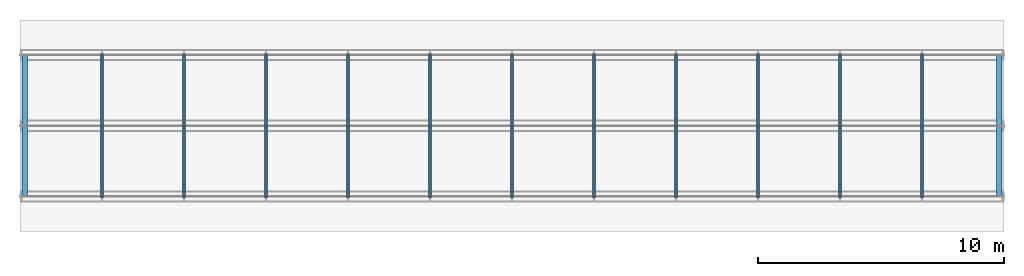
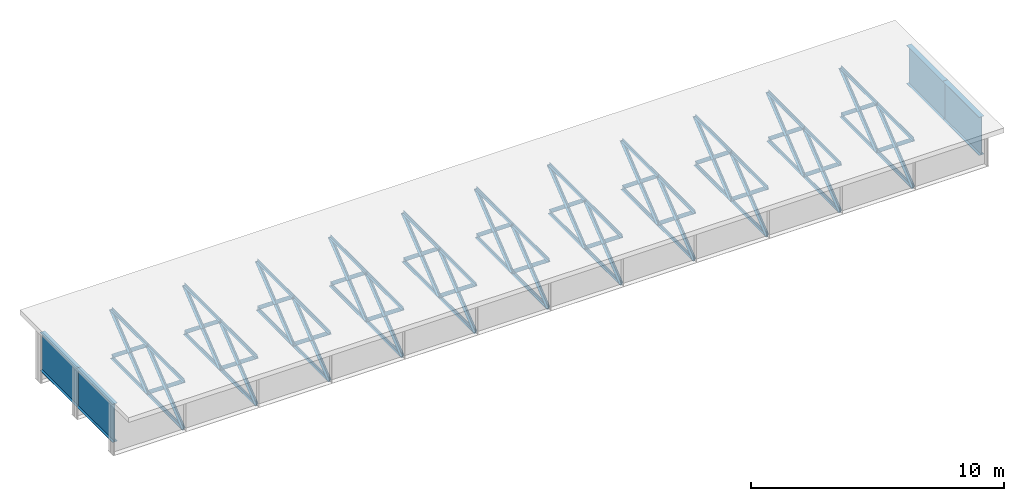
# One storey, part 1 of 12: 92 members.
"""IFC4 building model written with IfcOpenShell, lengths in metres."""

import ifcopenshell
import ifcopenshell.guid

model = None  # the IFC model being written
_history = None  # IfcOwnerHistory: only IFC2X3 demands one
_inside = {}  # id of a spatial element -> (the spatial element, [elements in it])
_under = {}  # id of a project, library or spatial element -> (it, [spatial elements below it])
_declared = {}  # id of a project -> (the project, [libraries it declares])
_typed = {}  # id of a type object -> (the type object, [elements of that type])
_made_of = {}  # id of a material, layer set ... -> (it, [elements and type objects made of it])


def new_model(schema):
    """Start an empty IFC model of exactly this schema.

    Asked for "IFC4X3", IfcOpenShell would pick the latest addendum, in which some entities
    have other attributes; the version numbers below select the first issue.
    IFC2X3 requires an IfcOwnerHistory on every rooted entity: one is made here for all.
    """
    global model, _history
    if schema == "IFC4X3":
        model = ifcopenshell.file(schema_version=(4, 3, 0, 0))
    else:
        model = ifcopenshell.file(schema=schema)
    _inside.clear()
    _under.clear()
    _declared.clear()
    _typed.clear()
    _made_of.clear()
    _history = None
    if model.schema == "IFC2X3":
        org = make("IfcOrganization", Name="unknown")
        user = make(
            "IfcPersonAndOrganization",
            ThePerson=make("IfcPerson", FamilyName="unknown"),
            TheOrganization=org,
        )
        app = make(
            "IfcApplication",
            ApplicationDeveloper=org,
            Version="unknown",
            ApplicationFullName="unknown",
            ApplicationIdentifier="unknown",
        )
        _history = make(
            "IfcOwnerHistory",
            OwningUser=user,
            OwningApplication=app,
            ChangeAction="ADDED",
            CreationDate=0,
        )
    return model


def make(cls, **values):
    """One entity of the class cls with the attributes given. An attribute that is None is left unset."""
    return model.create_entity(
        cls, **{name: value for name, value in values.items() if value is not None}
    )


def rooted(cls, **values):
    """An entity with a GlobalId (a new one), such as an element, a storey or a relation."""
    return make(cls, GlobalId=ifcopenshell.guid.new(), OwnerHistory=_history, **values)


def si_unit(unit_type, name, prefix=None):
    """IfcSIUnit, for example si_unit("LENGTHUNIT", "METRE", prefix="MILLI")."""
    return make("IfcSIUnit", UnitType=unit_type, Prefix=prefix, Name=name)


def assignment(units):
    """IfcUnitAssignment: the units of a project."""
    return None if units is None else make("IfcUnitAssignment", Units=units)


def point(xyz):
    """IfcCartesianPoint."""
    return None if xyz is None else make("IfcCartesianPoint", Coordinates=xyz)


def direction(xyz):
    """IfcDirection."""
    return None if xyz is None else make("IfcDirection", DirectionRatios=xyz)


def frame(location, z_axis=None, x_axis=None):
    """IfcAxis2Placement3D, a coordinate frame: its origin and axes. An axis left out is left unset."""
    return make(
        "IfcAxis2Placement3D",
        Location=point(location),
        Axis=direction(z_axis),
        RefDirection=direction(x_axis),
    )


def frame_2d(location, x_axis=None):
    """IfcAxis2Placement2D, a coordinate frame in the plane: its origin and x axis."""
    return make(
        "IfcAxis2Placement2D", Location=point(location), RefDirection=direction(x_axis)
    )


def origin():
    """The frame at (0, 0, 0) with its axes left unset."""
    return frame((0.0, 0.0, 0.0))


def origin_with_axes():
    """The frame at (0, 0, 0) with the z axis (0, 0, 1) and the x axis (1, 0, 0) written out."""
    return frame((0.0, 0.0, 0.0), z_axis=(0.0, 0.0, 1.0), x_axis=(1.0, 0.0, 0.0))


def origin_2d_with_axis():
    """The frame at (0, 0) in the plane with the x axis (1, 0) written out."""
    return frame_2d((0.0, 0.0), x_axis=(1.0, 0.0))


def place(relative_to, where):
    """IfcLocalPlacement: puts the frame where relative to a parent placement (None: the world)."""
    return make(
        "IfcLocalPlacement", PlacementRelTo=relative_to, RelativePlacement=where
    )


def context(
    kind, dimensions, precision=None, world=None, true_north=None, identifier=None
):
    """IfcGeometricRepresentationContext, for example the 3D "Model" context."""
    return make(
        "IfcGeometricRepresentationContext",
        ContextIdentifier=identifier,
        ContextType=kind,
        CoordinateSpaceDimension=dimensions,
        Precision=precision,
        WorldCoordinateSystem=world,
        TrueNorth=true_north,
    )


def subcontext(parent, identifier, kind, view, scale=None):
    """IfcGeometricRepresentationSubContext, for example "Body" below "Model"."""
    return make(
        "IfcGeometricRepresentationSubContext",
        ContextIdentifier=identifier,
        ContextType=kind,
        ParentContext=parent,
        TargetScale=scale,
        TargetView=view,
    )


def project(units=None, contexts=None):
    """IfcProject with its units and contexts."""
    return rooted(
        "IfcProject",
        Name="project",
        RepresentationContexts=contexts,
        UnitsInContext=assignment(units),
    )


def spatial(cls, under=None, at=None, **own):
    """A site, building, storey or space (cls), placed at a placement, below another one or the project."""
    s = rooted(cls, ObjectPlacement=at, **own)
    if under is not None:
        _under.setdefault(under.id(), (under, []))[1].append(s)
    return s


def profile(cls, at=None, kind="AREA", **sizes):
    """A parametric profile (cls). Its sizes go by their IFC names, for example OverallWidth=200.0."""
    return make(cls, ProfileType=kind, Position=at, **sizes)


def i_section(**sizes):
    """IfcIShapeProfileDef."""
    return profile("IfcIShapeProfileDef", **sizes)


def l_section(**sizes):
    """IfcLShapeProfileDef."""
    return profile("IfcLShapeProfileDef", **sizes)


def extrude(swept, where, along, depth):
    """IfcExtrudedAreaSolid: the profile swept, set in the frame where, extruded along a direction by depth."""
    return make(
        "IfcExtrudedAreaSolid",
        SweptArea=swept,
        Position=where,
        ExtrudedDirection=direction(along),
        Depth=depth,
    )


def shape(context_of_items, identifier, shape_type, items):
    """IfcShapeRepresentation: the items that make up one representation, for example the "Body"."""
    return make(
        "IfcShapeRepresentation",
        ContextOfItems=context_of_items,
        RepresentationIdentifier=identifier,
        RepresentationType=shape_type,
        Items=items,
    )


def made_of(thing, what):
    """Note that an element or type object is made of a material, layer set ...; save() writes the relation."""
    if what is not None:
        _made_of.setdefault(what.id(), (what, []))[1].append(thing)
    return thing


def element(
    cls,
    number,
    at=None,
    inside=None,
    cuts=None,
    type_object=None,
    material=None,
    context=None,
    identifier="Body",
    shape_type=None,
    held_by="IfcProductDefinitionShape",
    body=None,
    shapes=None,
    **own,
):
    """One element of the class cls, such as IfcWall. Its Tag is "e" and its number.

    at: its placement. inside: the storey or other place that contains it. cuts: it is an
    opening in that element (IfcRelVoidsElement). A single representation is given by context,
    identifier, shape_type and body (its items); several are given by shapes. held_by: the class
    of the entity that holds the representations. save() writes the other relations.
    """
    e = rooted(cls, Tag="e%d" % number, ObjectPlacement=at, **own)
    if body is not None:
        shapes = [shape(context, identifier, shape_type, body)]
    if shapes is not None:
        e.Representation = make(held_by, Representations=shapes)
    if inside is not None:
        _inside.setdefault(inside.id(), (inside, []))[1].append(e)
    if cuts is not None:
        rooted(
            "IfcRelVoidsElement", RelatingBuildingElement=cuts, RelatedOpeningElement=e
        )
    if type_object is not None:
        _typed.setdefault(type_object.id(), (type_object, []))[1].append(e)
    return made_of(e, material)


def aggregate(whole, parts):
    """IfcRelAggregates: a whole, such as a stair, and the parts it consists of."""
    return rooted("IfcRelAggregates", RelatingObject=whole, RelatedObjects=parts)


def save(model, path):
    """Write the relations noted so far, then the file.

    IfcRelAggregates (storeys below a building ...), IfcRelContainedInSpatialStructure (elements
    in a storey), IfcRelDefinesByType, IfcRelAssociatesMaterial and IfcRelDeclares: one each for
    every whole, place, type object, material and project.
    """
    for whole, parts in _under.values():
        aggregate(whole, parts)
    for where, things in _inside.values():
        rooted(
            "IfcRelContainedInSpatialStructure",
            RelatedElements=things,
            RelatingStructure=where,
        )
    for kind, things in _typed.values():
        rooted("IfcRelDefinesByType", RelatedObjects=things, RelatingType=kind)
    for what, things in _made_of.values():
        rooted("IfcRelAssociatesMaterial", RelatedObjects=things, RelatingMaterial=what)
    for by, libraries in _declared.values():
        rooted("IfcRelDeclares", RelatingContext=by, RelatedDefinitions=libraries)
    model.write(path)


model = new_model("IFC4")

# Units and contexts
model_context = context("Model", 3, precision=1e-05, world=origin())
body_context = subcontext(model_context, "Body", "Model", "MODEL_VIEW")
ifc_project = project(units=[si_unit("LENGTHUNIT", "METRE"), si_unit("AREAUNIT", "SQUARE_METRE"), si_unit("VOLUMEUNIT", "CUBIC_METRE"), si_unit("PLANEANGLEUNIT", "RADIAN")], contexts=[model_context])

# Site, building, storey
site_placement = place(None, origin_with_axes())
site = spatial("IfcSite", under=ifc_project, at=site_placement, Name="Default Site")
building_placement = place(site_placement, origin_with_axes())
building = spatial("IfcBuilding", under=site, at=building_placement, Name="Bridge Structure")
storey_placement = place(building_placement, origin_with_axes())
storey = spatial("IfcBuildingStorey", under=building, at=storey_placement, Name="Superstructure")

# Members
for number, where, z_axis, x_axis, name in (
    (1, (0.2, -2.875, 0.231), (0.0, 1.0, 0.0), (-1.0, 0.0, 0.0), "End Diaphragm"),
    (2, (0.2, 0.0, 0.231), (0.0, 1.0, 0.0), (-1.0, 0.0, 0.0), "End Diaphragm"),
):
    element("IfcMember", number, at=place(storey_placement, frame(where, z_axis=z_axis, x_axis=x_axis)), inside=storey, Name=name, context=body_context, shape_type="SweptSolid", body=[
        extrude(i_section(OverallWidth=0.225, OverallDepth=1.848, WebThickness=0.02, FlangeThickness=0.012, at=origin_2d_with_axis()), origin_with_axes(), (0.0, 0.0, 1.0), 2.875),
    ])
for number, where, z_axis, x_axis, name in (
    (3, (3.3333333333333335, -2.875, 1.155), (0.0, 0.7795443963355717, -0.6263469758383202), (-1.0, 0.0, 0.0), "Diagonal Brace"),
    (4, (3.3333333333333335, -2.875, -1.155), (0.0, 0.7795443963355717, 0.6263469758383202), (-1.0, 0.0, 0.0), "Diagonal Brace"),
):
    element("IfcMember", number, at=place(storey_placement, frame(where, z_axis=z_axis, x_axis=x_axis)), inside=storey, Name=name, context=body_context, shape_type="SweptSolid", body=[
        extrude(l_section(Depth=0.17300000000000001, Width=0.115, Thickness=0.008, at=origin_2d_with_axis()), origin_with_axes(), (0.0, 0.0, 1.0), 3.688051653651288),
    ])
for number, where, z_axis, x_axis, name in (
    (5, (3.3333333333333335, -2.875, -1.155), (0.0, 1.0, 0.0), (-1.0, 0.0, 0.0), "Bottom Chord"),
    (6, (3.3333333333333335, -2.875, 1.155), (0.0, 1.0, 0.0), (-1.0, 0.0, 0.0), "Top Chord"),
):
    element("IfcMember", number, at=place(storey_placement, frame(where, z_axis=z_axis, x_axis=x_axis)), inside=storey, Name=name, context=body_context, shape_type="SweptSolid", body=[
        extrude(l_section(Depth=0.15, Width=0.092, Thickness=0.008, at=origin_2d_with_axis()), origin_with_axes(), (0.0, 0.0, 1.0), 2.875),
    ])
for number, where, z_axis, x_axis, name in (
    (7, (3.3333333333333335, 0.0, 1.155), (0.0, 0.7795443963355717, -0.6263469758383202), (-1.0, 0.0, 0.0), "Diagonal Brace"),
    (8, (3.3333333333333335, 0.0, -1.155), (0.0, 0.7795443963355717, 0.6263469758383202), (-1.0, 0.0, 0.0), "Diagonal Brace"),
):
    element("IfcMember", number, at=place(storey_placement, frame(where, z_axis=z_axis, x_axis=x_axis)), inside=storey, Name=name, context=body_context, shape_type="SweptSolid", body=[
        extrude(l_section(Depth=0.17300000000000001, Width=0.115, Thickness=0.008, at=origin_2d_with_axis()), origin_with_axes(), (0.0, 0.0, 1.0), 3.688051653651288),
    ])
for number, where, z_axis, x_axis, name in (
    (9, (3.3333333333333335, 0.0, -1.155), (0.0, 1.0, 0.0), (-1.0, 0.0, 0.0), "Bottom Chord"),
    (10, (3.3333333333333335, 0.0, 1.155), (0.0, 1.0, 0.0), (-1.0, 0.0, 0.0), "Top Chord"),
):
    element("IfcMember", number, at=place(storey_placement, frame(where, z_axis=z_axis, x_axis=x_axis)), inside=storey, Name=name, context=body_context, shape_type="SweptSolid", body=[
        extrude(l_section(Depth=0.15, Width=0.092, Thickness=0.008, at=origin_2d_with_axis()), origin_with_axes(), (0.0, 0.0, 1.0), 2.875),
    ])
for number, where, z_axis, x_axis, name in (
    (11, (6.666666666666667, -2.875, 1.155), (0.0, 0.7795443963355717, -0.6263469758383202), (-1.0, 0.0, 0.0), "Diagonal Brace"),
    (12, (6.666666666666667, -2.875, -1.155), (0.0, 0.7795443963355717, 0.6263469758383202), (-1.0, 0.0, 0.0), "Diagonal Brace"),
):
    element("IfcMember", number, at=place(storey_placement, frame(where, z_axis=z_axis, x_axis=x_axis)), inside=storey, Name=name, context=body_context, shape_type="SweptSolid", body=[
        extrude(l_section(Depth=0.17300000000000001, Width=0.115, Thickness=0.008, at=origin_2d_with_axis()), origin_with_axes(), (0.0, 0.0, 1.0), 3.688051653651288),
    ])
for number, where, z_axis, x_axis, name in (
    (13, (6.666666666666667, -2.875, -1.155), (0.0, 1.0, 0.0), (-1.0, 0.0, 0.0), "Bottom Chord"),
    (14, (6.666666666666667, -2.875, 1.155), (0.0, 1.0, 0.0), (-1.0, 0.0, 0.0), "Top Chord"),
):
    element("IfcMember", number, at=place(storey_placement, frame(where, z_axis=z_axis, x_axis=x_axis)), inside=storey, Name=name, context=body_context, shape_type="SweptSolid", body=[
        extrude(l_section(Depth=0.15, Width=0.092, Thickness=0.008, at=origin_2d_with_axis()), origin_with_axes(), (0.0, 0.0, 1.0), 2.875),
    ])
for number, where, z_axis, x_axis, name in (
    (15, (6.666666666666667, 0.0, 1.155), (0.0, 0.7795443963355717, -0.6263469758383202), (-1.0, 0.0, 0.0), "Diagonal Brace"),
    (16, (6.666666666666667, 0.0, -1.155), (0.0, 0.7795443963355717, 0.6263469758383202), (-1.0, 0.0, 0.0), "Diagonal Brace"),
):
    element("IfcMember", number, at=place(storey_placement, frame(where, z_axis=z_axis, x_axis=x_axis)), inside=storey, Name=name, context=body_context, shape_type="SweptSolid", body=[
        extrude(l_section(Depth=0.17300000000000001, Width=0.115, Thickness=0.008, at=origin_2d_with_axis()), origin_with_axes(), (0.0, 0.0, 1.0), 3.688051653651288),
    ])
for number, where, z_axis, x_axis, name in (
    (17, (6.666666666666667, 0.0, -1.155), (0.0, 1.0, 0.0), (-1.0, 0.0, 0.0), "Bottom Chord"),
    (18, (6.666666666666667, 0.0, 1.155), (0.0, 1.0, 0.0), (-1.0, 0.0, 0.0), "Top Chord"),
):
    element("IfcMember", number, at=place(storey_placement, frame(where, z_axis=z_axis, x_axis=x_axis)), inside=storey, Name=name, context=body_context, shape_type="SweptSolid", body=[
        extrude(l_section(Depth=0.15, Width=0.092, Thickness=0.008, at=origin_2d_with_axis()), origin_with_axes(), (0.0, 0.0, 1.0), 2.875),
    ])
for number, where, z_axis, x_axis, name in (
    (19, (10.0, -2.875, 1.155), (0.0, 0.7795443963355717, -0.6263469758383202), (-1.0, 0.0, 0.0), "Diagonal Brace"),
    (20, (10.0, -2.875, -1.155), (0.0, 0.7795443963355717, 0.6263469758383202), (-1.0, 0.0, 0.0), "Diagonal Brace"),
):
    element("IfcMember", number, at=place(storey_placement, frame(where, z_axis=z_axis, x_axis=x_axis)), inside=storey, Name=name, context=body_context, shape_type="SweptSolid", body=[
        extrude(l_section(Depth=0.17300000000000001, Width=0.115, Thickness=0.008, at=origin_2d_with_axis()), origin_with_axes(), (0.0, 0.0, 1.0), 3.688051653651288),
    ])
for number, where, z_axis, x_axis, name in (
    (21, (10.0, -2.875, -1.155), (0.0, 1.0, 0.0), (-1.0, 0.0, 0.0), "Bottom Chord"),
    (22, (10.0, -2.875, 1.155), (0.0, 1.0, 0.0), (-1.0, 0.0, 0.0), "Top Chord"),
):
    element("IfcMember", number, at=place(storey_placement, frame(where, z_axis=z_axis, x_axis=x_axis)), inside=storey, Name=name, context=body_context, shape_type="SweptSolid", body=[
        extrude(l_section(Depth=0.15, Width=0.092, Thickness=0.008, at=origin_2d_with_axis()), origin_with_axes(), (0.0, 0.0, 1.0), 2.875),
    ])
for number, where, z_axis, x_axis, name in (
    (23, (10.0, 0.0, 1.155), (0.0, 0.7795443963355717, -0.6263469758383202), (-1.0, 0.0, 0.0), "Diagonal Brace"),
    (24, (10.0, 0.0, -1.155), (0.0, 0.7795443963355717, 0.6263469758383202), (-1.0, 0.0, 0.0), "Diagonal Brace"),
):
    element("IfcMember", number, at=place(storey_placement, frame(where, z_axis=z_axis, x_axis=x_axis)), inside=storey, Name=name, context=body_context, shape_type="SweptSolid", body=[
        extrude(l_section(Depth=0.17300000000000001, Width=0.115, Thickness=0.008, at=origin_2d_with_axis()), origin_with_axes(), (0.0, 0.0, 1.0), 3.688051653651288),
    ])
for number, where, z_axis, x_axis, name in (
    (25, (10.0, 0.0, -1.155), (0.0, 1.0, 0.0), (-1.0, 0.0, 0.0), "Bottom Chord"),
    (26, (10.0, 0.0, 1.155), (0.0, 1.0, 0.0), (-1.0, 0.0, 0.0), "Top Chord"),
):
    element("IfcMember", number, at=place(storey_placement, frame(where, z_axis=z_axis, x_axis=x_axis)), inside=storey, Name=name, context=body_context, shape_type="SweptSolid", body=[
        extrude(l_section(Depth=0.15, Width=0.092, Thickness=0.008, at=origin_2d_with_axis()), origin_with_axes(), (0.0, 0.0, 1.0), 2.875),
    ])
for number, where, z_axis, x_axis, name in (
    (27, (13.333333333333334, -2.875, 1.155), (0.0, 0.7795443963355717, -0.6263469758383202), (-1.0, 0.0, 0.0), "Diagonal Brace"),
    (28, (13.333333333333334, -2.875, -1.155), (0.0, 0.7795443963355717, 0.6263469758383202), (-1.0, 0.0, 0.0), "Diagonal Brace"),
):
    element("IfcMember", number, at=place(storey_placement, frame(where, z_axis=z_axis, x_axis=x_axis)), inside=storey, Name=name, context=body_context, shape_type="SweptSolid", body=[
        extrude(l_section(Depth=0.17300000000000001, Width=0.115, Thickness=0.008, at=origin_2d_with_axis()), origin_with_axes(), (0.0, 0.0, 1.0), 3.688051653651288),
    ])
for number, where, z_axis, x_axis, name in (
    (29, (13.333333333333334, -2.875, -1.155), (0.0, 1.0, 0.0), (-1.0, 0.0, 0.0), "Bottom Chord"),
    (30, (13.333333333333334, -2.875, 1.155), (0.0, 1.0, 0.0), (-1.0, 0.0, 0.0), "Top Chord"),
):
    element("IfcMember", number, at=place(storey_placement, frame(where, z_axis=z_axis, x_axis=x_axis)), inside=storey, Name=name, context=body_context, shape_type="SweptSolid", body=[
        extrude(l_section(Depth=0.15, Width=0.092, Thickness=0.008, at=origin_2d_with_axis()), origin_with_axes(), (0.0, 0.0, 1.0), 2.875),
    ])
for number, where, z_axis, x_axis, name in (
    (31, (13.333333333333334, 0.0, 1.155), (0.0, 0.7795443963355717, -0.6263469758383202), (-1.0, 0.0, 0.0), "Diagonal Brace"),
    (32, (13.333333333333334, 0.0, -1.155), (0.0, 0.7795443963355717, 0.6263469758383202), (-1.0, 0.0, 0.0), "Diagonal Brace"),
):
    element("IfcMember", number, at=place(storey_placement, frame(where, z_axis=z_axis, x_axis=x_axis)), inside=storey, Name=name, context=body_context, shape_type="SweptSolid", body=[
        extrude(l_section(Depth=0.17300000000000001, Width=0.115, Thickness=0.008, at=origin_2d_with_axis()), origin_with_axes(), (0.0, 0.0, 1.0), 3.688051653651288),
    ])
for number, where, z_axis, x_axis, name in (
    (33, (13.333333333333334, 0.0, -1.155), (0.0, 1.0, 0.0), (-1.0, 0.0, 0.0), "Bottom Chord"),
    (34, (13.333333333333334, 0.0, 1.155), (0.0, 1.0, 0.0), (-1.0, 0.0, 0.0), "Top Chord"),
):
    element("IfcMember", number, at=place(storey_placement, frame(where, z_axis=z_axis, x_axis=x_axis)), inside=storey, Name=name, context=body_context, shape_type="SweptSolid", body=[
        extrude(l_section(Depth=0.15, Width=0.092, Thickness=0.008, at=origin_2d_with_axis()), origin_with_axes(), (0.0, 0.0, 1.0), 2.875),
    ])
for number, where, z_axis, x_axis, name in (
    (35, (16.666666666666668, -2.875, 1.155), (0.0, 0.7795443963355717, -0.6263469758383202), (-1.0, 0.0, 0.0), "Diagonal Brace"),
    (36, (16.666666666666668, -2.875, -1.155), (0.0, 0.7795443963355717, 0.6263469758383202), (-1.0, 0.0, 0.0), "Diagonal Brace"),
):
    element("IfcMember", number, at=place(storey_placement, frame(where, z_axis=z_axis, x_axis=x_axis)), inside=storey, Name=name, context=body_context, shape_type="SweptSolid", body=[
        extrude(l_section(Depth=0.17300000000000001, Width=0.115, Thickness=0.008, at=origin_2d_with_axis()), origin_with_axes(), (0.0, 0.0, 1.0), 3.688051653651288),
    ])
for number, where, z_axis, x_axis, name in (
    (37, (16.666666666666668, -2.875, -1.155), (0.0, 1.0, 0.0), (-1.0, 0.0, 0.0), "Bottom Chord"),
    (38, (16.666666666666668, -2.875, 1.155), (0.0, 1.0, 0.0), (-1.0, 0.0, 0.0), "Top Chord"),
):
    element("IfcMember", number, at=place(storey_placement, frame(where, z_axis=z_axis, x_axis=x_axis)), inside=storey, Name=name, context=body_context, shape_type="SweptSolid", body=[
        extrude(l_section(Depth=0.15, Width=0.092, Thickness=0.008, at=origin_2d_with_axis()), origin_with_axes(), (0.0, 0.0, 1.0), 2.875),
    ])
for number, where, z_axis, x_axis, name in (
    (39, (16.666666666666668, 0.0, 1.155), (0.0, 0.7795443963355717, -0.6263469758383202), (-1.0, 0.0, 0.0), "Diagonal Brace"),
    (40, (16.666666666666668, 0.0, -1.155), (0.0, 0.7795443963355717, 0.6263469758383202), (-1.0, 0.0, 0.0), "Diagonal Brace"),
):
    element("IfcMember", number, at=place(storey_placement, frame(where, z_axis=z_axis, x_axis=x_axis)), inside=storey, Name=name, context=body_context, shape_type="SweptSolid", body=[
        extrude(l_section(Depth=0.17300000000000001, Width=0.115, Thickness=0.008, at=origin_2d_with_axis()), origin_with_axes(), (0.0, 0.0, 1.0), 3.688051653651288),
    ])
for number, where, z_axis, x_axis, name in (
    (41, (16.666666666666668, 0.0, -1.155), (0.0, 1.0, 0.0), (-1.0, 0.0, 0.0), "Bottom Chord"),
    (42, (16.666666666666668, 0.0, 1.155), (0.0, 1.0, 0.0), (-1.0, 0.0, 0.0), "Top Chord"),
):
    element("IfcMember", number, at=place(storey_placement, frame(where, z_axis=z_axis, x_axis=x_axis)), inside=storey, Name=name, context=body_context, shape_type="SweptSolid", body=[
        extrude(l_section(Depth=0.15, Width=0.092, Thickness=0.008, at=origin_2d_with_axis()), origin_with_axes(), (0.0, 0.0, 1.0), 2.875),
    ])
for number, where, z_axis, x_axis, name in (
    (43, (20.0, -2.875, 1.155), (0.0, 0.7795443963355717, -0.6263469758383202), (-1.0, 0.0, 0.0), "Diagonal Brace"),
    (44, (20.0, -2.875, -1.155), (0.0, 0.7795443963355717, 0.6263469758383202), (-1.0, 0.0, 0.0), "Diagonal Brace"),
):
    element("IfcMember", number, at=place(storey_placement, frame(where, z_axis=z_axis, x_axis=x_axis)), inside=storey, Name=name, context=body_context, shape_type="SweptSolid", body=[
        extrude(l_section(Depth=0.17300000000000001, Width=0.115, Thickness=0.008, at=origin_2d_with_axis()), origin_with_axes(), (0.0, 0.0, 1.0), 3.688051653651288),
    ])
for number, where, z_axis, x_axis, name in (
    (45, (20.0, -2.875, -1.155), (0.0, 1.0, 0.0), (-1.0, 0.0, 0.0), "Bottom Chord"),
    (46, (20.0, -2.875, 1.155), (0.0, 1.0, 0.0), (-1.0, 0.0, 0.0), "Top Chord"),
):
    element("IfcMember", number, at=place(storey_placement, frame(where, z_axis=z_axis, x_axis=x_axis)), inside=storey, Name=name, context=body_context, shape_type="SweptSolid", body=[
        extrude(l_section(Depth=0.15, Width=0.092, Thickness=0.008, at=origin_2d_with_axis()), origin_with_axes(), (0.0, 0.0, 1.0), 2.875),
    ])
for number, where, z_axis, x_axis, name in (
    (47, (20.0, 0.0, 1.155), (0.0, 0.7795443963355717, -0.6263469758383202), (-1.0, 0.0, 0.0), "Diagonal Brace"),
    (48, (20.0, 0.0, -1.155), (0.0, 0.7795443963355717, 0.6263469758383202), (-1.0, 0.0, 0.0), "Diagonal Brace"),
):
    element("IfcMember", number, at=place(storey_placement, frame(where, z_axis=z_axis, x_axis=x_axis)), inside=storey, Name=name, context=body_context, shape_type="SweptSolid", body=[
        extrude(l_section(Depth=0.17300000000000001, Width=0.115, Thickness=0.008, at=origin_2d_with_axis()), origin_with_axes(), (0.0, 0.0, 1.0), 3.688051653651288),
    ])
for number, where, z_axis, x_axis, name in (
    (49, (20.0, 0.0, -1.155), (0.0, 1.0, 0.0), (-1.0, 0.0, 0.0), "Bottom Chord"),
    (50, (20.0, 0.0, 1.155), (0.0, 1.0, 0.0), (-1.0, 0.0, 0.0), "Top Chord"),
):
    element("IfcMember", number, at=place(storey_placement, frame(where, z_axis=z_axis, x_axis=x_axis)), inside=storey, Name=name, context=body_context, shape_type="SweptSolid", body=[
        extrude(l_section(Depth=0.15, Width=0.092, Thickness=0.008, at=origin_2d_with_axis()), origin_with_axes(), (0.0, 0.0, 1.0), 2.875),
    ])
for number, where, z_axis, x_axis, name in (
    (51, (23.333333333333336, -2.875, 1.155), (0.0, 0.7795443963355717, -0.6263469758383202), (-1.0, 0.0, 0.0), "Diagonal Brace"),
    (52, (23.333333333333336, -2.875, -1.155), (0.0, 0.7795443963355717, 0.6263469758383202), (-1.0, 0.0, 0.0), "Diagonal Brace"),
):
    element("IfcMember", number, at=place(storey_placement, frame(where, z_axis=z_axis, x_axis=x_axis)), inside=storey, Name=name, context=body_context, shape_type="SweptSolid", body=[
        extrude(l_section(Depth=0.17300000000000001, Width=0.115, Thickness=0.008, at=origin_2d_with_axis()), origin_with_axes(), (0.0, 0.0, 1.0), 3.688051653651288),
    ])
for number, where, z_axis, x_axis, name in (
    (53, (23.333333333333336, -2.875, -1.155), (0.0, 1.0, 0.0), (-1.0, 0.0, 0.0), "Bottom Chord"),
    (54, (23.333333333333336, -2.875, 1.155), (0.0, 1.0, 0.0), (-1.0, 0.0, 0.0), "Top Chord"),
):
    element("IfcMember", number, at=place(storey_placement, frame(where, z_axis=z_axis, x_axis=x_axis)), inside=storey, Name=name, context=body_context, shape_type="SweptSolid", body=[
        extrude(l_section(Depth=0.15, Width=0.092, Thickness=0.008, at=origin_2d_with_axis()), origin_with_axes(), (0.0, 0.0, 1.0), 2.875),
    ])
for number, where, z_axis, x_axis, name in (
    (55, (23.333333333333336, 0.0, 1.155), (0.0, 0.7795443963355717, -0.6263469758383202), (-1.0, 0.0, 0.0), "Diagonal Brace"),
    (56, (23.333333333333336, 0.0, -1.155), (0.0, 0.7795443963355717, 0.6263469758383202), (-1.0, 0.0, 0.0), "Diagonal Brace"),
):
    element("IfcMember", number, at=place(storey_placement, frame(where, z_axis=z_axis, x_axis=x_axis)), inside=storey, Name=name, context=body_context, shape_type="SweptSolid", body=[
        extrude(l_section(Depth=0.17300000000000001, Width=0.115, Thickness=0.008, at=origin_2d_with_axis()), origin_with_axes(), (0.0, 0.0, 1.0), 3.688051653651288),
    ])
for number, where, z_axis, x_axis, name in (
    (57, (23.333333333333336, 0.0, -1.155), (0.0, 1.0, 0.0), (-1.0, 0.0, 0.0), "Bottom Chord"),
    (58, (23.333333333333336, 0.0, 1.155), (0.0, 1.0, 0.0), (-1.0, 0.0, 0.0), "Top Chord"),
):
    element("IfcMember", number, at=place(storey_placement, frame(where, z_axis=z_axis, x_axis=x_axis)), inside=storey, Name=name, context=body_context, shape_type="SweptSolid", body=[
        extrude(l_section(Depth=0.15, Width=0.092, Thickness=0.008, at=origin_2d_with_axis()), origin_with_axes(), (0.0, 0.0, 1.0), 2.875),
    ])
for number, where, z_axis, x_axis, name in (
    (59, (26.666666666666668, -2.875, 1.155), (0.0, 0.7795443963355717, -0.6263469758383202), (-1.0, 0.0, 0.0), "Diagonal Brace"),
    (60, (26.666666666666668, -2.875, -1.155), (0.0, 0.7795443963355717, 0.6263469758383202), (-1.0, 0.0, 0.0), "Diagonal Brace"),
):
    element("IfcMember", number, at=place(storey_placement, frame(where, z_axis=z_axis, x_axis=x_axis)), inside=storey, Name=name, context=body_context, shape_type="SweptSolid", body=[
        extrude(l_section(Depth=0.17300000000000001, Width=0.115, Thickness=0.008, at=origin_2d_with_axis()), origin_with_axes(), (0.0, 0.0, 1.0), 3.688051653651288),
    ])
for number, where, z_axis, x_axis, name in (
    (61, (26.666666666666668, -2.875, -1.155), (0.0, 1.0, 0.0), (-1.0, 0.0, 0.0), "Bottom Chord"),
    (62, (26.666666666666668, -2.875, 1.155), (0.0, 1.0, 0.0), (-1.0, 0.0, 0.0), "Top Chord"),
):
    element("IfcMember", number, at=place(storey_placement, frame(where, z_axis=z_axis, x_axis=x_axis)), inside=storey, Name=name, context=body_context, shape_type="SweptSolid", body=[
        extrude(l_section(Depth=0.15, Width=0.092, Thickness=0.008, at=origin_2d_with_axis()), origin_with_axes(), (0.0, 0.0, 1.0), 2.875),
    ])
for number, where, z_axis, x_axis, name in (
    (63, (26.666666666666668, 0.0, 1.155), (0.0, 0.7795443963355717, -0.6263469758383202), (-1.0, 0.0, 0.0), "Diagonal Brace"),
    (64, (26.666666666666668, 0.0, -1.155), (0.0, 0.7795443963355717, 0.6263469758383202), (-1.0, 0.0, 0.0), "Diagonal Brace"),
):
    element("IfcMember", number, at=place(storey_placement, frame(where, z_axis=z_axis, x_axis=x_axis)), inside=storey, Name=name, context=body_context, shape_type="SweptSolid", body=[
        extrude(l_section(Depth=0.17300000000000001, Width=0.115, Thickness=0.008, at=origin_2d_with_axis()), origin_with_axes(), (0.0, 0.0, 1.0), 3.688051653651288),
    ])
for number, where, z_axis, x_axis, name in (
    (65, (26.666666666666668, 0.0, -1.155), (0.0, 1.0, 0.0), (-1.0, 0.0, 0.0), "Bottom Chord"),
    (66, (26.666666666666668, 0.0, 1.155), (0.0, 1.0, 0.0), (-1.0, 0.0, 0.0), "Top Chord"),
):
    element("IfcMember", number, at=place(storey_placement, frame(where, z_axis=z_axis, x_axis=x_axis)), inside=storey, Name=name, context=body_context, shape_type="SweptSolid", body=[
        extrude(l_section(Depth=0.15, Width=0.092, Thickness=0.008, at=origin_2d_with_axis()), origin_with_axes(), (0.0, 0.0, 1.0), 2.875),
    ])
for number, where, z_axis, x_axis, name in (
    (67, (30.0, -2.875, 1.155), (0.0, 0.7795443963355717, -0.6263469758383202), (-1.0, 0.0, 0.0), "Diagonal Brace"),
    (68, (30.0, -2.875, -1.155), (0.0, 0.7795443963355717, 0.6263469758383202), (-1.0, 0.0, 0.0), "Diagonal Brace"),
):
    element("IfcMember", number, at=place(storey_placement, frame(where, z_axis=z_axis, x_axis=x_axis)), inside=storey, Name=name, context=body_context, shape_type="SweptSolid", body=[
        extrude(l_section(Depth=0.17300000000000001, Width=0.115, Thickness=0.008, at=origin_2d_with_axis()), origin_with_axes(), (0.0, 0.0, 1.0), 3.688051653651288),
    ])
for number, where, z_axis, x_axis, name in (
    (69, (30.0, -2.875, -1.155), (0.0, 1.0, 0.0), (-1.0, 0.0, 0.0), "Bottom Chord"),
    (70, (30.0, -2.875, 1.155), (0.0, 1.0, 0.0), (-1.0, 0.0, 0.0), "Top Chord"),
):
    element("IfcMember", number, at=place(storey_placement, frame(where, z_axis=z_axis, x_axis=x_axis)), inside=storey, Name=name, context=body_context, shape_type="SweptSolid", body=[
        extrude(l_section(Depth=0.15, Width=0.092, Thickness=0.008, at=origin_2d_with_axis()), origin_with_axes(), (0.0, 0.0, 1.0), 2.875),
    ])
for number, where, z_axis, x_axis, name in (
    (71, (30.0, 0.0, 1.155), (0.0, 0.7795443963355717, -0.6263469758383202), (-1.0, 0.0, 0.0), "Diagonal Brace"),
    (72, (30.0, 0.0, -1.155), (0.0, 0.7795443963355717, 0.6263469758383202), (-1.0, 0.0, 0.0), "Diagonal Brace"),
):
    element("IfcMember", number, at=place(storey_placement, frame(where, z_axis=z_axis, x_axis=x_axis)), inside=storey, Name=name, context=body_context, shape_type="SweptSolid", body=[
        extrude(l_section(Depth=0.17300000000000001, Width=0.115, Thickness=0.008, at=origin_2d_with_axis()), origin_with_axes(), (0.0, 0.0, 1.0), 3.688051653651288),
    ])
for number, where, z_axis, x_axis, name in (
    (73, (30.0, 0.0, -1.155), (0.0, 1.0, 0.0), (-1.0, 0.0, 0.0), "Bottom Chord"),
    (74, (30.0, 0.0, 1.155), (0.0, 1.0, 0.0), (-1.0, 0.0, 0.0), "Top Chord"),
):
    element("IfcMember", number, at=place(storey_placement, frame(where, z_axis=z_axis, x_axis=x_axis)), inside=storey, Name=name, context=body_context, shape_type="SweptSolid", body=[
        extrude(l_section(Depth=0.15, Width=0.092, Thickness=0.008, at=origin_2d_with_axis()), origin_with_axes(), (0.0, 0.0, 1.0), 2.875),
    ])
for number, where, z_axis, x_axis, name in (
    (75, (33.333333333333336, -2.875, 1.155), (0.0, 0.7795443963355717, -0.6263469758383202), (-1.0, 0.0, 0.0), "Diagonal Brace"),
    (76, (33.333333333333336, -2.875, -1.155), (0.0, 0.7795443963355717, 0.6263469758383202), (-1.0, 0.0, 0.0), "Diagonal Brace"),
):
    element("IfcMember", number, at=place(storey_placement, frame(where, z_axis=z_axis, x_axis=x_axis)), inside=storey, Name=name, context=body_context, shape_type="SweptSolid", body=[
        extrude(l_section(Depth=0.17300000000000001, Width=0.115, Thickness=0.008, at=origin_2d_with_axis()), origin_with_axes(), (0.0, 0.0, 1.0), 3.688051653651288),
    ])
for number, where, z_axis, x_axis, name in (
    (77, (33.333333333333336, -2.875, -1.155), (0.0, 1.0, 0.0), (-1.0, 0.0, 0.0), "Bottom Chord"),
    (78, (33.333333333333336, -2.875, 1.155), (0.0, 1.0, 0.0), (-1.0, 0.0, 0.0), "Top Chord"),
):
    element("IfcMember", number, at=place(storey_placement, frame(where, z_axis=z_axis, x_axis=x_axis)), inside=storey, Name=name, context=body_context, shape_type="SweptSolid", body=[
        extrude(l_section(Depth=0.15, Width=0.092, Thickness=0.008, at=origin_2d_with_axis()), origin_with_axes(), (0.0, 0.0, 1.0), 2.875),
    ])
for number, where, z_axis, x_axis, name in (
    (79, (33.333333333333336, 0.0, 1.155), (0.0, 0.7795443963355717, -0.6263469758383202), (-1.0, 0.0, 0.0), "Diagonal Brace"),
    (80, (33.333333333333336, 0.0, -1.155), (0.0, 0.7795443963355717, 0.6263469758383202), (-1.0, 0.0, 0.0), "Diagonal Brace"),
):
    element("IfcMember", number, at=place(storey_placement, frame(where, z_axis=z_axis, x_axis=x_axis)), inside=storey, Name=name, context=body_context, shape_type="SweptSolid", body=[
        extrude(l_section(Depth=0.17300000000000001, Width=0.115, Thickness=0.008, at=origin_2d_with_axis()), origin_with_axes(), (0.0, 0.0, 1.0), 3.688051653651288),
    ])
for number, where, z_axis, x_axis, name in (
    (81, (33.333333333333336, 0.0, -1.155), (0.0, 1.0, 0.0), (-1.0, 0.0, 0.0), "Bottom Chord"),
    (82, (33.333333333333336, 0.0, 1.155), (0.0, 1.0, 0.0), (-1.0, 0.0, 0.0), "Top Chord"),
):
    element("IfcMember", number, at=place(storey_placement, frame(where, z_axis=z_axis, x_axis=x_axis)), inside=storey, Name=name, context=body_context, shape_type="SweptSolid", body=[
        extrude(l_section(Depth=0.15, Width=0.092, Thickness=0.008, at=origin_2d_with_axis()), origin_with_axes(), (0.0, 0.0, 1.0), 2.875),
    ])
for number, where, z_axis, x_axis, name in (
    (83, (36.66666666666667, -2.875, 1.155), (0.0, 0.7795443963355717, -0.6263469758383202), (-1.0, 0.0, 0.0), "Diagonal Brace"),
    (84, (36.66666666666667, -2.875, -1.155), (0.0, 0.7795443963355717, 0.6263469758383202), (-1.0, 0.0, 0.0), "Diagonal Brace"),
):
    element("IfcMember", number, at=place(storey_placement, frame(where, z_axis=z_axis, x_axis=x_axis)), inside=storey, Name=name, context=body_context, shape_type="SweptSolid", body=[
        extrude(l_section(Depth=0.17300000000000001, Width=0.115, Thickness=0.008, at=origin_2d_with_axis()), origin_with_axes(), (0.0, 0.0, 1.0), 3.688051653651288),
    ])
for number, where, z_axis, x_axis, name in (
    (85, (36.66666666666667, -2.875, -1.155), (0.0, 1.0, 0.0), (-1.0, 0.0, 0.0), "Bottom Chord"),
    (86, (36.66666666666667, -2.875, 1.155), (0.0, 1.0, 0.0), (-1.0, 0.0, 0.0), "Top Chord"),
):
    element("IfcMember", number, at=place(storey_placement, frame(where, z_axis=z_axis, x_axis=x_axis)), inside=storey, Name=name, context=body_context, shape_type="SweptSolid", body=[
        extrude(l_section(Depth=0.15, Width=0.092, Thickness=0.008, at=origin_2d_with_axis()), origin_with_axes(), (0.0, 0.0, 1.0), 2.875),
    ])
for number, where, z_axis, x_axis, name in (
    (87, (36.66666666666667, 0.0, 1.155), (0.0, 0.7795443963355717, -0.6263469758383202), (-1.0, 0.0, 0.0), "Diagonal Brace"),
    (88, (36.66666666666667, 0.0, -1.155), (0.0, 0.7795443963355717, 0.6263469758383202), (-1.0, 0.0, 0.0), "Diagonal Brace"),
):
    element("IfcMember", number, at=place(storey_placement, frame(where, z_axis=z_axis, x_axis=x_axis)), inside=storey, Name=name, context=body_context, shape_type="SweptSolid", body=[
        extrude(l_section(Depth=0.17300000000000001, Width=0.115, Thickness=0.008, at=origin_2d_with_axis()), origin_with_axes(), (0.0, 0.0, 1.0), 3.688051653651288),
    ])
for number, where, z_axis, x_axis, name in (
    (89, (36.66666666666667, 0.0, -1.155), (0.0, 1.0, 0.0), (-1.0, 0.0, 0.0), "Bottom Chord"),
    (90, (36.66666666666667, 0.0, 1.155), (0.0, 1.0, 0.0), (-1.0, 0.0, 0.0), "Top Chord"),
):
    element("IfcMember", number, at=place(storey_placement, frame(where, z_axis=z_axis, x_axis=x_axis)), inside=storey, Name=name, context=body_context, shape_type="SweptSolid", body=[
        extrude(l_section(Depth=0.15, Width=0.092, Thickness=0.008, at=origin_2d_with_axis()), origin_with_axes(), (0.0, 0.0, 1.0), 2.875),
    ])
for number, where, z_axis, x_axis, name in (
    (91, (39.800000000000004, -2.875, 0.231), (0.0, 1.0, 0.0), (-1.0, 0.0, 0.0), "End Diaphragm"),
    (92, (39.800000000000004, 0.0, 0.231), (0.0, 1.0, 0.0), (-1.0, 0.0, 0.0), "End Diaphragm"),
):
    element("IfcMember", number, at=place(storey_placement, frame(where, z_axis=z_axis, x_axis=x_axis)), inside=storey, Name=name, context=body_context, shape_type="SweptSolid", body=[
        extrude(i_section(OverallWidth=0.225, OverallDepth=1.848, WebThickness=0.02, FlangeThickness=0.012, at=origin_2d_with_axis()), origin_with_axes(), (0.0, 0.0, 1.0), 2.875),
    ])

save(model, "model.ifc")
